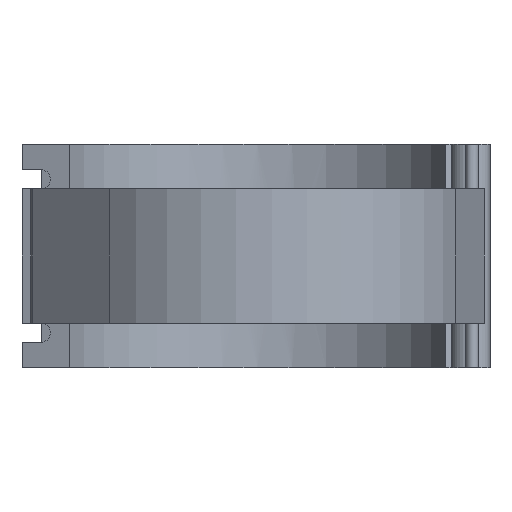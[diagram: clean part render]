
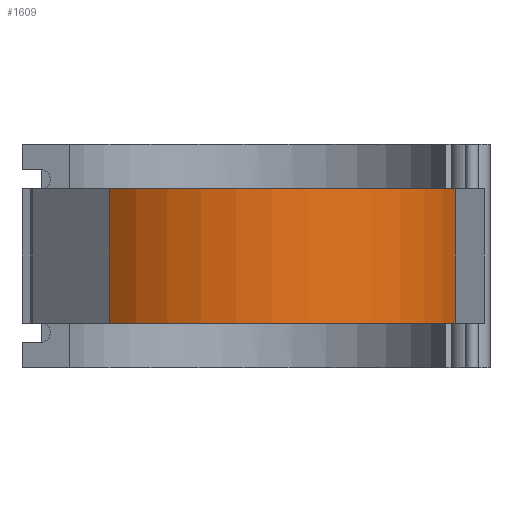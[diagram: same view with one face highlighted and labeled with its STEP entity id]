
A CAD part, front view. The second image highlights one B-rep face of the part: STEP entity #1609.
In plain terms, the highlighted cylindrical face has radius 162.225 mm (diameter 324.45 mm), a partial arc.
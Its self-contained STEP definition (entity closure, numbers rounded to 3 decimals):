
#189=FACE_OUTER_BOUND('',#299,.T.);
#299=EDGE_LOOP('',(#1461,#1462,#1463,#1464));
#391=CIRCLE('',#1797,162.225);
#394=CIRCLE('',#1801,162.225);
#511=LINE('',#3336,#624);
#515=LINE('',#3345,#628);
#624=VECTOR('',#2287,10.);
#628=VECTOR('',#2301,10.);
#773=VERTEX_POINT('',#3299);
#774=VERTEX_POINT('',#3301);
#777=VERTEX_POINT('',#3309);
#778=VERTEX_POINT('',#3311);
#990=EDGE_CURVE('',#773,#774,#391,.T.);
#995=EDGE_CURVE('',#777,#778,#394,.T.);
#1009=EDGE_CURVE('',#777,#774,#511,.T.);
#1013=EDGE_CURVE('',#773,#778,#515,.T.);
#1461=ORIENTED_EDGE('',*,*,#1013,.T.);
#1462=ORIENTED_EDGE('',*,*,#995,.F.);
#1463=ORIENTED_EDGE('',*,*,#1009,.T.);
#1464=ORIENTED_EDGE('',*,*,#990,.F.);
#1520=CYLINDRICAL_SURFACE('',#1816,162.225);
#1609=ADVANCED_FACE('',(#189),#1520,.T.);
#1797=AXIS2_PLACEMENT_3D('',#3302,#2249,#2250);
#1801=AXIS2_PLACEMENT_3D('',#3312,#2259,#2260);
#1816=AXIS2_PLACEMENT_3D('',#3346,#2302,#2303);
#2249=DIRECTION('center_axis',(0.,0.,-1.));
#2250=DIRECTION('ref_axis',(0.718,0.697,0.));
#2259=DIRECTION('center_axis',(0.,0.,1.));
#2260=DIRECTION('ref_axis',(0.718,0.697,0.));
#2287=DIRECTION('',(0.,0.,-1.));
#2301=DIRECTION('',(0.,0.,1.));
#2302=DIRECTION('center_axis',(0.,0.,1.));
#2303=DIRECTION('ref_axis',(0.718,0.697,0.));
#3299=CARTESIAN_POINT('',(155.833,-45.088,-52.8));
#3301=CARTESIAN_POINT('',(-116.404,-112.992,-52.8));
#3302=CARTESIAN_POINT('Origin',(0.,0.,
-52.8));
#3309=CARTESIAN_POINT('',(-116.404,-112.992,52.8));
#3311=CARTESIAN_POINT('',(155.833,-45.088,52.8));
#3312=CARTESIAN_POINT('Origin',(0.,0.,
52.8));
#3336=CARTESIAN_POINT('',(-116.404,-112.992,0.));
#3345=CARTESIAN_POINT('',(155.833,-45.088,0.));
#3346=CARTESIAN_POINT('Origin',(0.,0.,
0.));
